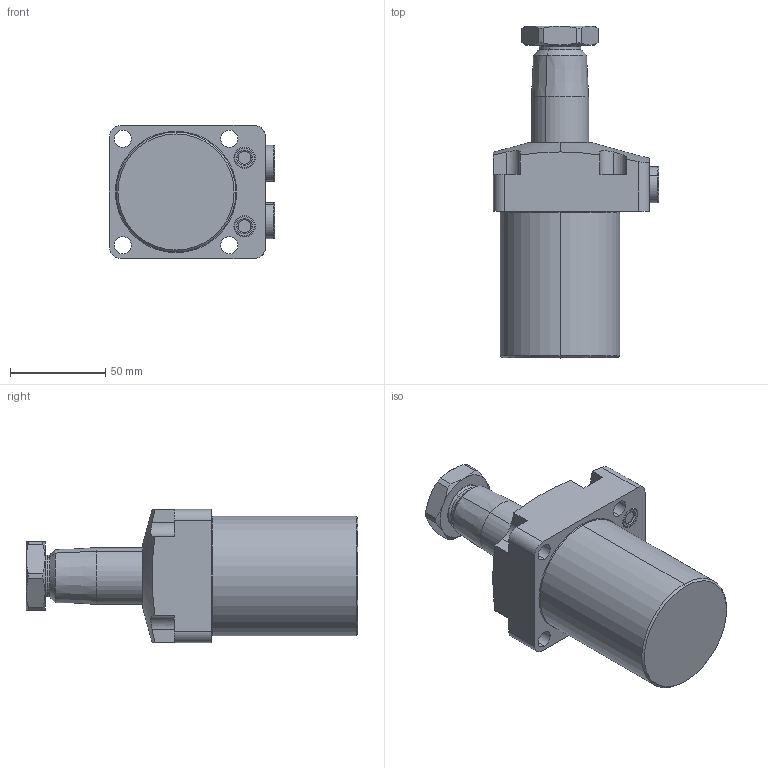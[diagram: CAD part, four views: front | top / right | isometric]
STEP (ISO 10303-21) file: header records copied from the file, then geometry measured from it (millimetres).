
FILE_DESCRIPTION(/* description */ (''),/* implementation_level */ '2;1');
FILE_NAME(/* name */ 'TRC10-RN60.stp',/* time_stamp */ '2025-01-04T10:49:44+08:00',/* author */ (''),/* organization */ (''),/* preprocessor_version */ 'ST-DEVELOPER v16.7',/* originating_system */ 'SIEMENS PLM Software NX 12.0',/* authorisation */ '');
FILE_SCHEMA (('AUTOMOTIVE_DESIGN { 1 0 10303 214 3 1 1 1 }'));
Length unit declared in the file: millimetre
Products named in the file (5): TRC10-RN60-04; TRC10-RN60-03; TRC10-RN60-02; TRC10-RN60-01; CTU10-RN60_step
Assembly tree (5 placements, depth 2):
  CTU10-RN60_step
    TRC10-RN60-01  x2
    TRC10-RN60-02
    TRC10-RN60-03
    TRC10-RN60-04
Bounding box: 86.8 x 174.4 x 70 mm (x, y, z)
Volume: 441713.6 mm3; surface area: 54589.8 mm2
Topology: 5 solids, 7 shells, 205 faces, 469 edges, 292 vertices
Faces by surface type: cylinder 73, plane 69, cone 40, torus 22, sphere 1
Entity records: 5470 total; most frequent: CARTESIAN_POINT 1096, DIRECTION 950, ORIENTED_EDGE 844, EDGE_CURVE 422, AXIS2_PLACEMENT_3D 392, VERTEX_POINT 264, EDGE_LOOP 210, CIRCLE 203
